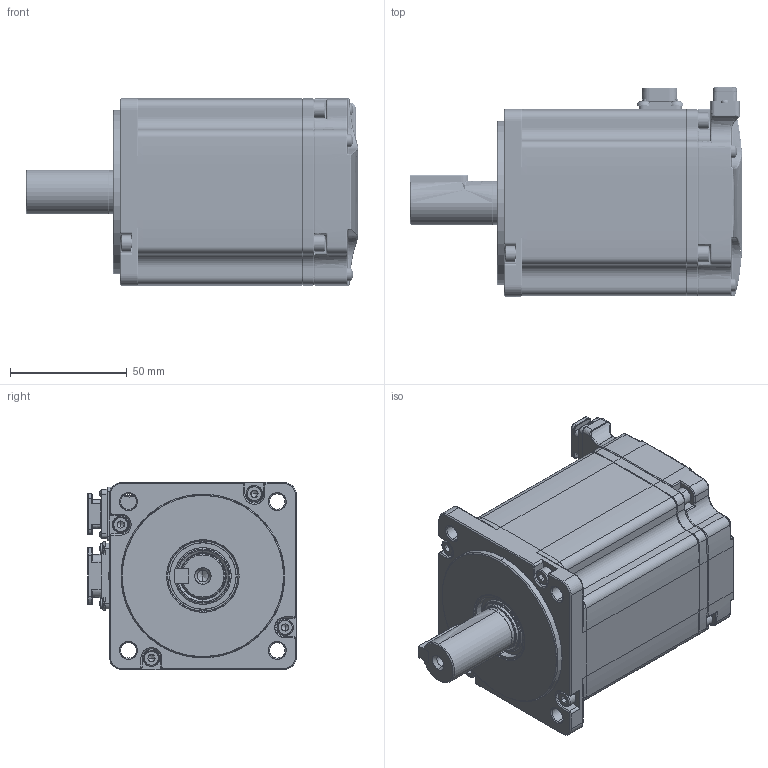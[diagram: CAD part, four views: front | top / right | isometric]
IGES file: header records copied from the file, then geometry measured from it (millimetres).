
Start section: SolidWorks IGES file using analytic representation for surfaces
Global section: file name: Z:\部门共同资料库\官网3D图\EM3Jnew\小型连接器电机\EM3J-08ALA223.IGS; native system: SolidWorks 2018; preprocessor: SolidWorks 2018; author: wangyitong; date: 231117.152658; units: millimetre
Bounding box: 142 x 89.3 x 80 mm (x, y, z)
Surface area: 111806.1 mm2 (no closed solid volume)
Topology: 0 solids, 0 shells, 2607 faces, 27246 edges, 27197 vertices
Faces by surface type: bspline 1510, revolution 1097
